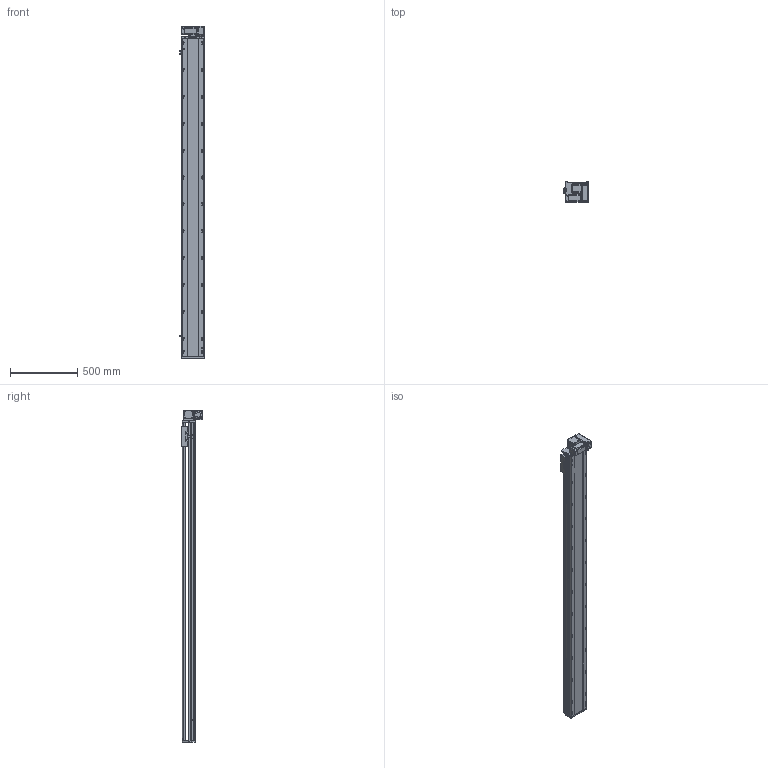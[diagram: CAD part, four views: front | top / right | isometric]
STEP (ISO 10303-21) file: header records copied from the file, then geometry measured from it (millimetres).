
FILE_DESCRIPTION (( 'STEP AP214' ), '1' );
FILE_NAME ('RTB17S-XX-2100-RM-M40-C4.STEP', '2025-12-11T08:25:37', ( '' ), ( '' ), 'SwSTEP 2.0', 'SolidWorks 2018', '' );
FILE_SCHEMA (( 'AUTOMOTIVE_DESIGN' ));
Length unit declared in the file: millimetre
Products named in the file (14): OMRON EE-SX672 传感器^RTB17S-XX-XX-RM-M40-C4; RTH13-BL-012覜茼え俋离^RTB17S-XX-XX-RM-M40-C4; RTB17S-XX-2100-RM-M40-C4; RTB14-L-018P^RTB17S-RM-々湍釱蚾饜-400W_RTB17S-XX-XX-RM-M40-C4; RTB17S-L-001耜醱啣^RTB17S-XX-XX-RM-M40-C4; RTB17S-RM-々湍釱蚾饜-400W^RTB17S-XX-XX-RM-M40-C4; RTB17S-L-007奻裔^RTB17S-XX-XX-RM-M40-C4; RTB14-L-017P^RTB17S-RM-々湍釱蚾饜-400W_RTB17S-XX-XX-RM-M40-C4; RTB14-L-008-M20--萇儂啣^RTB17S-RM-々湍釱蚾饜-400W_RTB17S-XX-XX-RM-M40-C4; RTB17S-L-004佪裝蹟譫蟀諉釱^RTB17S-XX-XX-RM-M40-C4; RTB14-L-005P--轴承塑胶压盖^RTB17S-RM-皮带座装配-400W_RTB17S-XX-XX-RM-M40-C4; 400W侜督萇儂^RTB17S-XX-XX-RM-M40-C4; RTB17-R-011菁釱^RTB17S-XX-XX-RM-M40-C4; RTB17S-L-014-T20--々湍釱^RTB17S-RM-々湍釱蚾饜-400W_RTB17S-XX-XX-RM-M40-C4
Assembly tree (16 placements, depth 3):
  RTB17S-XX-2100-RM-M40-C4
    RTB17-R-011菁釱^RTB17S-XX-XX-RM-M40-C4
    RTB17S-L-007奻裔^RTB17S-XX-XX-RM-M40-C4
    OMRON EE-SX672 传感器^RTB17S-XX-XX-RM-M40-C4  x3
    RTB17S-L-001耜醱啣^RTB17S-XX-XX-RM-M40-C4
    400W侜督萇儂^RTB17S-XX-XX-RM-M40-C4
    RTB17S-L-004佪裝蹟譫蟀諉釱^RTB17S-XX-XX-RM-M40-C4
    RTH13-BL-012覜茼え俋离^RTB17S-XX-XX-RM-M40-C4
    RTB17S-RM-々湍釱蚾饜-400W^RTB17S-XX-XX-RM-M40-C4
      RTB17S-L-014-T20--々湍釱^RTB17S-RM-々湍釱蚾饜-400W_RTB17S-XX-XX-RM-M40-C4
      RTB14-L-005P--轴承塑胶压盖^RTB17S-RM-皮带座装配-400W_RTB17S-XX-XX-RM-M40-C4
      RTB14-L-008-M20--萇儂啣^RTB17S-RM-々湍釱蚾饜-400W_RTB17S-XX-XX-RM-M40-C4
      RTB14-L-017P^RTB17S-RM-々湍釱蚾饜-400W_RTB17S-XX-XX-RM-M40-C4  x2
      RTB14-L-018P^RTB17S-RM-々湍釱蚾饜-400W_RTB17S-XX-XX-RM-M40-C4
Bounding box: 183.5 x 156.5 x 2472.5 mm (x, y, z)
Volume: 21342140 mm3; surface area: 2477184.7 mm2
Topology: 15 solids, 15 shells, 2301 faces, 6411 edges, 4185 vertices
Faces by surface type: plane 1080, cylinder 773, bspline 301, cone 139, torus 8
Entity records: 67241 total; most frequent: CARTESIAN_POINT 19016, ORIENTED_EDGE 9666, DIRECTION 8936, EDGE_CURVE 4833, VERTEX_POINT 3173, AXIS2_PLACEMENT_3D 3103, VECTOR 2730, LINE 2730
